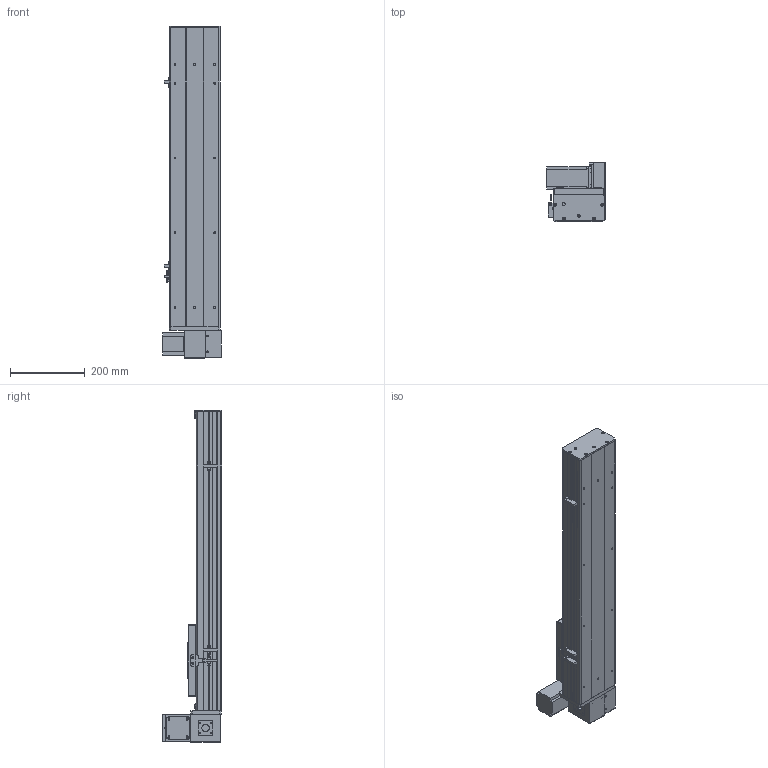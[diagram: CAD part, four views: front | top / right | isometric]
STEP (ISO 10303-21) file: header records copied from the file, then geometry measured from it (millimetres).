
FILE_DESCRIPTION (( 'STEP AP203' ), '1' );
FILE_NAME ('Y135CB-D90-S500-UL-P400W.STEP', '2020-02-18T07:07:46', ( '微软用户' ), ( '微软中国' ), 'SwSTEP 2.0', 'SolidWorks 2017', '' );
FILE_SCHEMA (( 'CONFIG_CONTROL_DESIGN' ));
Length unit declared in the file: millimetre
Products named in the file (18): C-雄赽釱--; 0B-萇儂楊擘啣; Y10B-耜蚾蟀諉啣----; san松下电机400不带刹车----; 00B-俋欶BM--; 5CB --掛极耜裔啣-; Y10B--々湍喘謫眊--666; C-詩湍揤踡え-陔; Y135CB-耜裔; Y135CB-D90-S500-UL-P400W; 135CB--詩湍-CE; 135CB---遴掛极.-; Y100-135俋离換覜ん--; 35CB---喘謫眊楊擘啣; Y135C-陔俋离換覜結え-; 0B-埴倛裔啣; 5C--俋欶; 0B-源倛裔啣
Assembly tree (21 placements, depth 2):
  Y135CB-D90-S500-UL-P400W
    Y135CB-耜裔
    135CB---遴掛极.-
    35CB---喘謫眊楊擘啣
    0B-埴倛裔啣
    0B-源倛裔啣
    0B-萇儂楊擘啣
    san松下电机400不带刹车----
    5CB --掛极耜裔啣-  x2
    C-詩湍揤踡え-陔  x2
    135CB--詩湍-CE
    Y100-135俋离換覜ん--  x3
    Y135C-陔俋离換覜結え-
    5C--俋欶
    C-雄赽釱--
    Y10B-耜蚾蟀諉啣----
    00B-俋欶BM--
    Y10B--々湍喘謫眊--666
Bounding box: 157 x 158.7 x 888 mm (x, y, z)
Volume: 3087883.2 mm3; surface area: 1195010.7 mm2
Topology: 21 solids, 21 shells, 937 faces, 2491 edges, 1650 vertices
Faces by surface type: cylinder 465, plane 456, cone 16
Entity records: 28945 total; most frequent: DIRECTION 4807, CARTESIAN_POINT 4724, ORIENTED_EDGE 4458, EDGE_CURVE 2229, AXIS2_PLACEMENT_3D 1749, VERTEX_POINT 1478, LINE 1309, VECTOR 1309
